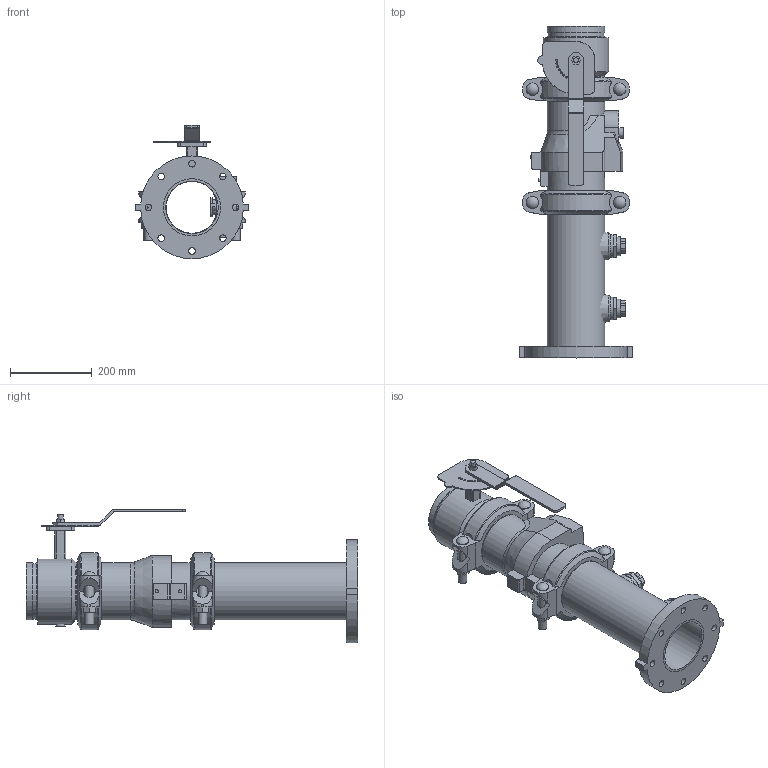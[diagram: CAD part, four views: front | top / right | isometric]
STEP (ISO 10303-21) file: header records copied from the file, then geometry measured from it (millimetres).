
FILE_DESCRIPTION(/* description */ ('VIC DVI PUMP DROP VERT S/390 (OGSxFLG)','CAx-IF Rec.Pracs.---Representation and Presentation of Product Manufacturing Information (PMI)---4.0---2014-10-13'),/* implementation_level */ '2;1');
FILE_NAME(/* name */ 'C:\Users\Vjadhav\AppData\Roaming\Autodesk\ApplicationPlugins\Back Up\Victaulic_IPS_Vertical DVI_PN10_Series 390 (OGSxFLG)\Victaulic_IPS_Vertical DVI_PN10_Series 390 (OGSxFLG)_05.0 (139.7)x05.0 (139.7) (125x125).stp',/* time_stamp */ '2020-11-09T17:50:36+05:00',/* author */ ('Vjadhav'),/* organization */ ('Victaulic'),/* preprocessor_version */ 'ST-DEVELOPER v17.2',/* originating_system */ 'Autodesk Inventor 2019',/* authorisation */ '');
FILE_SCHEMA (('AP242_MANAGED_MODEL_BASED_3D_ENGINEERING_MIM_LF { 1 0 10303 442 1 1 4 }'));
Length unit declared in the file: inch
Products named in the file (7): 390-05.0 (139.7)x05.0 (139.7); 741-05.0 (139.7); Pipe-05.0 (139.7)x05.0 (139.7); 177N-05.0 (139.7); 761-05.0 (139.7); 716-05.0 (139.7); 923-04.0x0.75
Assembly tree (8 placements, depth 2):
  390-05.0 (139.7)x05.0 (139.7)
    741-05.0 (139.7)
    Pipe-05.0 (139.7)x05.0 (139.7)
    177N-05.0 (139.7)  x2
    761-05.0 (139.7)
    716-05.0 (139.7)
    923-04.0x0.75  x2
Bounding box: 276.35 x 810.01 x 325.88 mm (x, y, z)
Volume: 7010197.1 mm3; surface area: 1254907.3 mm2
Topology: 8 solids, 9 shells, 499 faces, 1327 edges, 883 vertices
Faces by surface type: plane 295, cylinder 171, cone 14, torus 13, sphere 4, bspline 2
Full cylindrical faces by diameter (mm): 4.826 x10, 7.62 x2, 8.636 x4, 12.7 x2, 16.002 x8, 21.209 x4, 22.86 x1, 25.4 x1, 26.67 x2, 30.48 x4, 45.974 x4, 55.118 x1, 55.626 x2, 126.594 x1, 127 x2, 128.194 x1, 129.388 x1, 135.484 x6, 139.7 x16, 160.02 x1
Entity records: 11969 total; most frequent: CARTESIAN_POINT 2292, DIRECTION 1981, ORIENTED_EDGE 1840, EDGE_CURVE 920, AXIS2_PLACEMENT_3D 736, VERTEX_POINT 615, LINE 509, VECTOR 509
